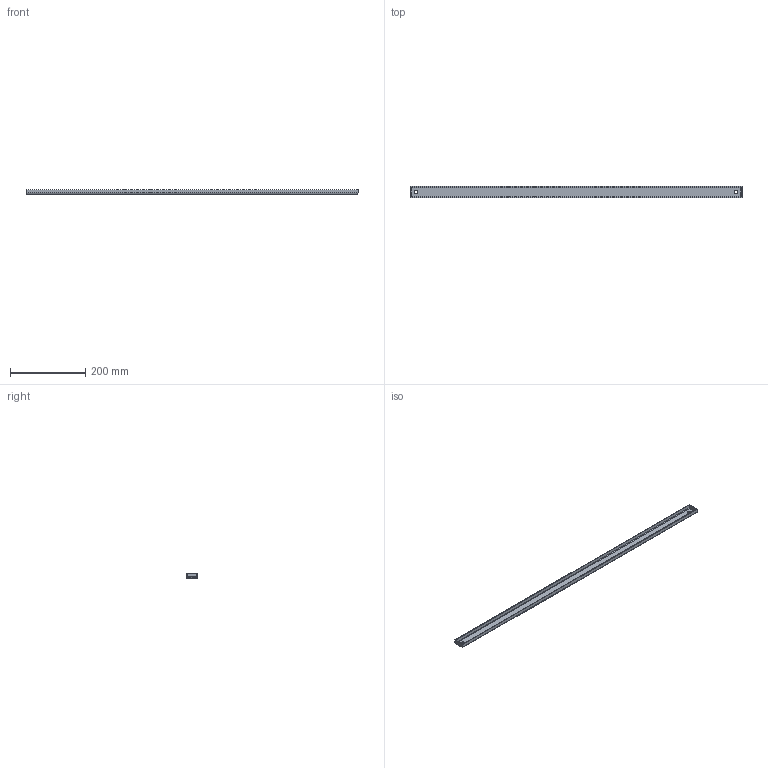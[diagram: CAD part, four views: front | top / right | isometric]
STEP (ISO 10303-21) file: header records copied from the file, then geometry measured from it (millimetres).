
FILE_DESCRIPTION(('STEP AP203'), '1');
FILE_NAME('Ïåðåìû÷êà ñåêöèîííàÿ 1000 ìì OptiBox M 419347 ÊÝÀÇ', '', ('UNSPECIFIED'), ('UNSPECIFIED'), 'C3D Converter', 'C3D Toolkit', '');
FILE_SCHEMA(('CONFIG_CONTROL_DESIGN'));
Length unit declared in the file: millimetre
Bounding box: 880 x 30 x 12 mm (x, y, z)
Volume: 85009.8 mm3; surface area: 88956.6 mm2
Topology: 1 solids, 1 shells, 40 faces, 82 edges, 44 vertices
Faces by surface type: plane 22, cylinder 10, bspline 8
Full cylindrical faces by diameter (mm): 9 x2
Entity records: 1905 total; most frequent: CARTESIAN_POINT 1098, ORIENTED_EDGE 160, DIRECTION 132, EDGE_CURVE 80, LINE 58, VECTOR 58, EDGE_LOOP 46, VERTEX_POINT 44
